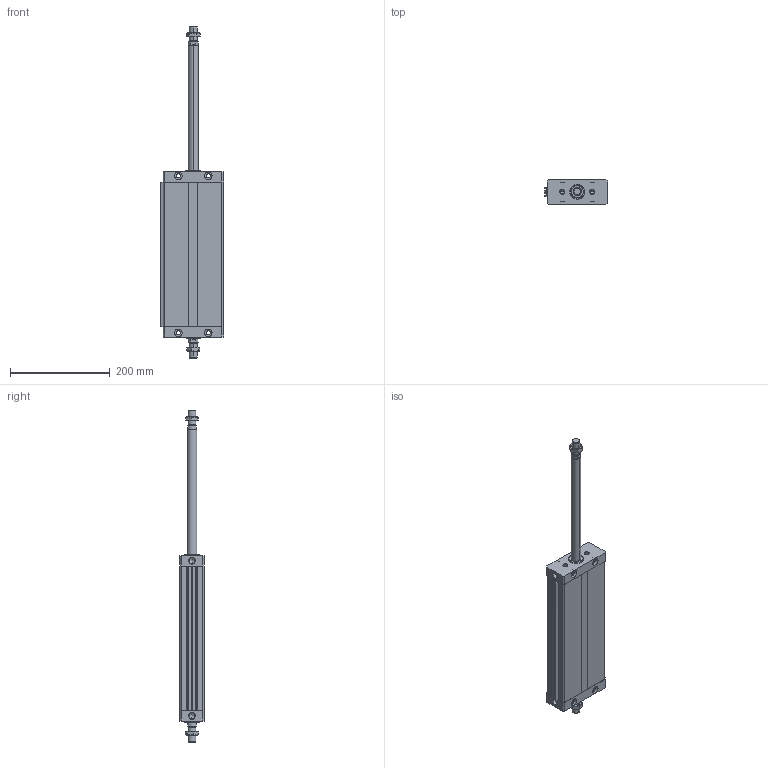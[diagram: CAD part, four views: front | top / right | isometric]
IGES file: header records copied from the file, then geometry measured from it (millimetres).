
Global section: file name: No Iges File Name specified; native system: Autodesk Inventor 2011; preprocessor: AutoDesk Inventor Iges Exporter R2011; author: airolcr1; date: 20101213.153602; units: millimetre
Bounding box: 126.75 x 50 x 666 mm (x, y, z)
Volume: 1318465.1 mm3; surface area: 294978.4 mm2
Topology: 6 solids, 6 shells, 280 faces, 664 edges, 396 vertices
Faces by surface type: bspline 114, plane 98, cone 36, cylinder 18, revolution 14
